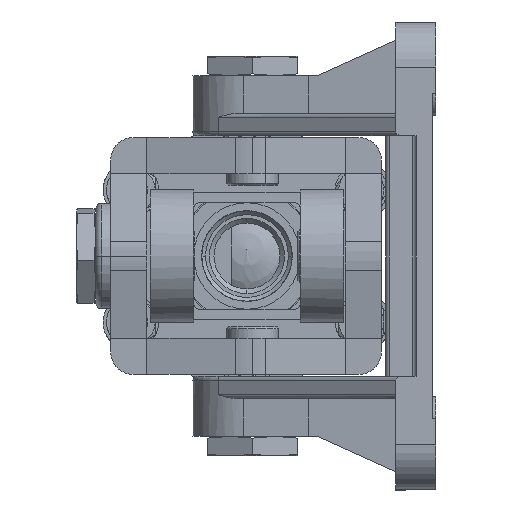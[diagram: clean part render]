
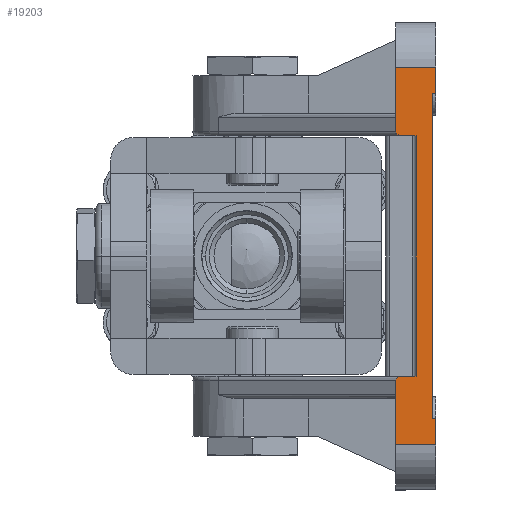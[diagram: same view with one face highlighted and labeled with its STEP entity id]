
A CAD part, left-side view. The second image highlights one B-rep face of the part: STEP entity #19203.
In plain terms, the highlighted planar face has unit normal (-1, 0, 0).
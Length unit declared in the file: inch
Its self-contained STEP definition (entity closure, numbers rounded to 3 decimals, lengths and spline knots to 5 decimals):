
#83 = EDGE_CURVE ( 'NONE', #17076, #2245, #21268, .T. ) ;
#701 = ORIENTED_EDGE ( 'NONE', *, *, #35983, .T. ) ;
#833 = CARTESIAN_POINT ( 'NONE',  ( -2.885, 0.27, -3.14062 ) ) ;
#855 = CARTESIAN_POINT ( 'NONE',  ( -2.885, 0.61, -2. ) ) ;
#1619 = CARTESIAN_POINT ( 'NONE',  ( -2.885, -0.06, -2.70562 ) ) ;
#1685 = LINE ( 'NONE', #15226, #10747 ) ;
#2081 = VERTEX_POINT ( 'NONE', #35760 ) ;
#2245 = VERTEX_POINT ( 'NONE', #25516 ) ;
#2716 = EDGE_CURVE ( 'NONE', #29021, #2081, #15544, .T. ) ;
#2813 = VECTOR ( 'NONE', #25528, 39.37008 ) ;
#4439 = DIRECTION ( 'NONE',  ( 0., -1., 0. ) ) ;
#4570 = CARTESIAN_POINT ( 'NONE',  ( -2.885, 0.56486, 2. ) ) ;
#4929 = ORIENTED_EDGE ( 'NONE', *, *, #38454, .F. ) ;
#5459 = CARTESIAN_POINT ( 'NONE',  ( -2.885, 0.27, 3.14063 ) ) ;
#5838 = LINE ( 'NONE', #19329, #19625 ) ;
#6061 = ORIENTED_EDGE ( 'NONE', *, *, #9759, .F. ) ;
#6849 = VECTOR ( 'NONE', #14380, 39.37008 ) ;
#7818 = CARTESIAN_POINT ( 'NONE',  ( -2.885, 0.50103, -2. ) ) ;
#8252 = LINE ( 'NONE', #21758, #15102 ) ;
#8281 = DIRECTION ( 'NONE',  ( 0., 1., 0. ) ) ;
#8480 = CARTESIAN_POINT ( 'NONE',  ( -2.885, -0.06, -2.70562 ) ) ;
#8622 = PLANE ( 'NONE',  #11148 ) ;
#8650 = ORIENTED_EDGE ( 'NONE', *, *, #23923, .F. ) ;
#8902 = EDGE_CURVE ( 'NONE', #38145, #17307, #31983, .T. ) ;
#9014 = CARTESIAN_POINT ( 'NONE',  ( -2.885, 0.56486, -2. ) ) ;
#9253 = VERTEX_POINT ( 'NONE', #29750 ) ;
#9298 = ORIENTED_EDGE ( 'NONE', *, *, #25615, .T. ) ;
#9323 = CARTESIAN_POINT ( 'NONE',  ( -2.885, 0.61, -2.3075 ) ) ;
#9635 = DIRECTION ( 'NONE',  ( 0., 0., 1. ) ) ;
#9661 = CARTESIAN_POINT ( 'NONE',  ( -2.885, 0.27, 2. ) ) ;
#9759 = EDGE_CURVE ( 'NONE', #29021, #20881, #1685, .T. ) ;
#10747 = VECTOR ( 'NONE', #28759, 39.37008 ) ;
#11004 = EDGE_CURVE ( 'NONE', #40572, #17307, #31190, .T. ) ;
#11148 = AXIS2_PLACEMENT_3D ( 'NONE', #12387, #25870, #39411 ) ;
#12034 = CARTESIAN_POINT ( 'NONE',  ( -2.885, 0.61, -2. ) ) ;
#12353 = DIRECTION ( 'NONE',  ( 0., 1., 0. ) ) ;
#12387 = CARTESIAN_POINT ( 'NONE',  ( -2.885, 0.27, 3.14063 ) ) ;
#13152 = LINE ( 'NONE', #26666, #19539 ) ;
#13314 = EDGE_LOOP ( 'NONE', ( #4929, #25641, #31660, #32199, #18787, #14068, #41062, #9298, #36013, #34683, #40480, #14466, #6061, #35669, #701, #8650 ) ) ;
#14068 = ORIENTED_EDGE ( 'NONE', *, *, #8902, .F. ) ;
#14358 = DIRECTION ( 'NONE',  ( 0., -1., 0. ) ) ;
#14380 = DIRECTION ( 'NONE',  ( 0., -1., 0. ) ) ;
#14466 = ORIENTED_EDGE ( 'NONE', *, *, #40697, .F. ) ;
#15102 = VECTOR ( 'NONE', #35299, 39.37008 ) ;
#15155 = DIRECTION ( 'NONE',  ( 0., 0., -1. ) ) ;
#15226 = CARTESIAN_POINT ( 'NONE',  ( -2.885, 0.61, 2. ) ) ;
#15344 = LINE ( 'NONE', #28878, #16724 ) ;
#15501 = EDGE_CURVE ( 'NONE', #38145, #9253, #29216, .T. ) ;
#15544 =( BOUNDED_CURVE ( )  B_SPLINE_CURVE ( 3, ( #21392, #34921, #4570, #18099 ),
 .UNSPECIFIED., .F., .F. ) 
 B_SPLINE_CURVE_WITH_KNOTS ( ( 4, 4 ),
 ( 3.14159, 4.71239 ),
 .UNSPECIFIED. ) 
 CURVE ( )  GEOMETRIC_REPRESENTATION_ITEM ( )  RATIONAL_B_SPLINE_CURVE ( ( 1., 0.805, 0.805, 1. ) ) 
 REPRESENTATION_ITEM ( '' )  );
#16243 = CARTESIAN_POINT ( 'NONE',  ( -2.885, 0.27, -2. ) ) ;
#16724 = VECTOR ( 'NONE', #42408, 39.37008 ) ;
#17076 = VERTEX_POINT ( 'NONE', #18373 ) ;
#17307 = VERTEX_POINT ( 'NONE', #22548 ) ;
#18099 = CARTESIAN_POINT ( 'NONE',  ( -2.885, 0.50103, 2. ) ) ;
#18373 = CARTESIAN_POINT ( 'NONE',  ( -2.885, 0.61, 3.14063 ) ) ;
#18563 = EDGE_CURVE ( 'NONE', #42594, #34440, #25094, .T. ) ;
#18787 = ORIENTED_EDGE ( 'NONE', *, *, #11004, .T. ) ;
#18967 = DIRECTION ( 'NONE',  ( 0., 0., 1. ) ) ;
#19203 = ADVANCED_FACE ( 'NONE', ( #38982 ), #8622, .F. ) ;
#19329 = CARTESIAN_POINT ( 'NONE',  ( -2.885, 0., 3.14063 ) ) ;
#19539 = VECTOR ( 'NONE', #40202, 39.37008 ) ;
#19625 = VECTOR ( 'NONE', #32850, 39.37008 ) ;
#20638 = CARTESIAN_POINT ( 'NONE',  ( -2.885, 0.61, -3.14063 ) ) ;
#20881 = VERTEX_POINT ( 'NONE', #25462 ) ;
#21268 = LINE ( 'NONE', #34795, #22461 ) ;
#21392 = CARTESIAN_POINT ( 'NONE',  ( -2.885, 0.61, 2.0625 ) ) ;
#21758 = CARTESIAN_POINT ( 'NONE',  ( -2.885, 0.61, 2. ) ) ;
#22461 = VECTOR ( 'NONE', #4439, 39.37008 ) ;
#22543 = CARTESIAN_POINT ( 'NONE',  ( -2.885, 0.61, -2.02589 ) ) ;
#22548 = CARTESIAN_POINT ( 'NONE',  ( -2.885, -0.06, -3.14062 ) ) ;
#22959 = EDGE_CURVE ( 'NONE', #35137, #35218, #31957, .T. ) ;
#23923 = EDGE_CURVE ( 'NONE', #27159, #38600, #35793, .T. ) ;
#24312 = VECTOR ( 'NONE', #14358, 39.37008 ) ;
#24346 = CARTESIAN_POINT ( 'NONE',  ( -2.885, 0.61, 2.0625 ) ) ;
#25094 = LINE ( 'NONE', #38621, #26671 ) ;
#25462 = CARTESIAN_POINT ( 'NONE',  ( -2.885, 0.61, 2.3075 ) ) ;
#25516 = CARTESIAN_POINT ( 'NONE',  ( -2.885, -0.06, 3.14063 ) ) ;
#25528 = DIRECTION ( 'NONE',  ( 0., 0., 1. ) ) ;
#25615 = EDGE_CURVE ( 'NONE', #9253, #34440, #5838, .T. ) ;
#25641 = ORIENTED_EDGE ( 'NONE', *, *, #22959, .T. ) ;
#25870 = DIRECTION ( 'NONE',  ( 1., 0., 0. ) ) ;
#26497 = LINE ( 'NONE', #40017, #37225 ) ;
#26666 = CARTESIAN_POINT ( 'NONE',  ( -2.885, -0.06, 3.14063 ) ) ;
#26671 = VECTOR ( 'NONE', #8281, 39.37008 ) ;
#27159 = VERTEX_POINT ( 'NONE', #16243 ) ;
#28759 = DIRECTION ( 'NONE',  ( 0., 0., 1. ) ) ;
#28878 = CARTESIAN_POINT ( 'NONE',  ( -2.885, 0.61, 2. ) ) ;
#28892 = CARTESIAN_POINT ( 'NONE',  ( -2.885, 0.61, -2.0625 ) ) ;
#29021 = VERTEX_POINT ( 'NONE', #24346 ) ;
#29216 = LINE ( 'NONE', #42737, #30398 ) ;
#29750 = CARTESIAN_POINT ( 'NONE',  ( -2.885, 0., -2.70562 ) ) ;
#30398 = VECTOR ( 'NONE', #12353, 39.37008 ) ;
#31190 = LINE ( 'NONE', #833, #24312 ) ;
#31216 = LINE ( 'NONE', #855, #6849 ) ;
#31660 = ORIENTED_EDGE ( 'NONE', *, *, #33356, .F. ) ;
#31957 =( BOUNDED_CURVE ( )  B_SPLINE_CURVE ( 3, ( #39389, #9014, #22543, #36073 ),
 .UNSPECIFIED., .F., .F. ) 
 B_SPLINE_CURVE_WITH_KNOTS ( ( 4, 4 ),
 ( 4.71239, 6.28319 ),
 .UNSPECIFIED. ) 
 CURVE ( )  GEOMETRIC_REPRESENTATION_ITEM ( )  RATIONAL_B_SPLINE_CURVE ( ( 1., 0.805, 0.805, 1. ) ) 
 REPRESENTATION_ITEM ( '' )  );
#31983 = LINE ( 'NONE', #1619, #33174 ) ;
#32174 = CARTESIAN_POINT ( 'NONE',  ( -2.885, -0.06, 2.70562 ) ) ;
#32199 = ORIENTED_EDGE ( 'NONE', *, *, #42628, .F. ) ;
#32850 = DIRECTION ( 'NONE',  ( 0., 0., 1. ) ) ;
#33174 = VECTOR ( 'NONE', #15155, 39.37008 ) ;
#33356 = EDGE_CURVE ( 'NONE', #42700, #35218, #26497, .T. ) ;
#34440 = VERTEX_POINT ( 'NONE', #42957 ) ;
#34683 = ORIENTED_EDGE ( 'NONE', *, *, #39813, .F. ) ;
#34795 = CARTESIAN_POINT ( 'NONE',  ( -2.885, 0.27, 3.14063 ) ) ;
#34921 = CARTESIAN_POINT ( 'NONE',  ( -2.885, 0.61, 2.02589 ) ) ;
#35137 = VERTEX_POINT ( 'NONE', #7818 ) ;
#35218 = VERTEX_POINT ( 'NONE', #28892 ) ;
#35299 = DIRECTION ( 'NONE',  ( 0., -1., 0. ) ) ;
#35669 = ORIENTED_EDGE ( 'NONE', *, *, #2716, .T. ) ;
#35760 = CARTESIAN_POINT ( 'NONE',  ( -2.885, 0.50103, 2. ) ) ;
#35768 = VECTOR ( 'NONE', #18967, 39.37008 ) ;
#35793 = LINE ( 'NONE', #5459, #35768 ) ;
#35983 = EDGE_CURVE ( 'NONE', #2081, #38600, #8252, .T. ) ;
#36013 = ORIENTED_EDGE ( 'NONE', *, *, #18563, .F. ) ;
#36073 = CARTESIAN_POINT ( 'NONE',  ( -2.885, 0.61, -2.0625 ) ) ;
#37225 = VECTOR ( 'NONE', #9635, 39.37008 ) ;
#38145 = VERTEX_POINT ( 'NONE', #8480 ) ;
#38454 = EDGE_CURVE ( 'NONE', #35137, #27159, #31216, .T. ) ;
#38600 = VERTEX_POINT ( 'NONE', #9661 ) ;
#38621 = CARTESIAN_POINT ( 'NONE',  ( -2.885, -0.06, 2.70562 ) ) ;
#38982 = FACE_OUTER_BOUND ( 'NONE', #13314, .T. ) ;
#39389 = CARTESIAN_POINT ( 'NONE',  ( -2.885, 0.50103, -2. ) ) ;
#39411 = DIRECTION ( 'NONE',  ( 0., 0., -1. ) ) ;
#39813 = EDGE_CURVE ( 'NONE', #2245, #42594, #13152, .T. ) ;
#40017 = CARTESIAN_POINT ( 'NONE',  ( -2.885, 0.61, -2.37 ) ) ;
#40202 = DIRECTION ( 'NONE',  ( 0., 0., -1. ) ) ;
#40480 = ORIENTED_EDGE ( 'NONE', *, *, #83, .F. ) ;
#40572 = VERTEX_POINT ( 'NONE', #20638 ) ;
#40697 = EDGE_CURVE ( 'NONE', #20881, #17076, #15344, .T. ) ;
#41062 = ORIENTED_EDGE ( 'NONE', *, *, #15501, .T. ) ;
#42408 = DIRECTION ( 'NONE',  ( 0., 0., 1. ) ) ;
#42418 = LINE ( 'NONE', #12034, #2813 ) ;
#42594 = VERTEX_POINT ( 'NONE', #32174 ) ;
#42628 = EDGE_CURVE ( 'NONE', #40572, #42700, #42418, .T. ) ;
#42700 = VERTEX_POINT ( 'NONE', #9323 ) ;
#42737 = CARTESIAN_POINT ( 'NONE',  ( -2.885, -0.06, -2.70562 ) ) ;
#42957 = CARTESIAN_POINT ( 'NONE',  ( -2.885, 0., 2.70562 ) ) ;
